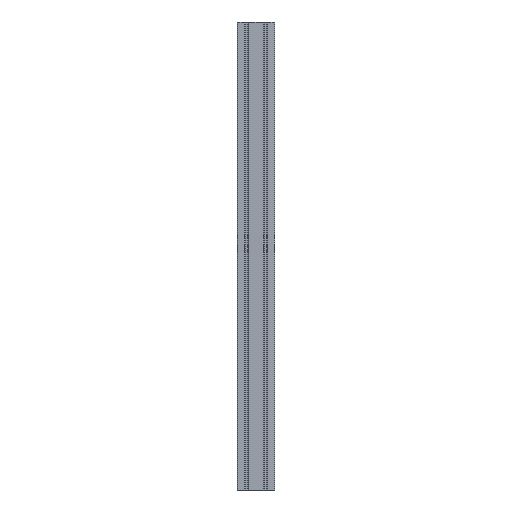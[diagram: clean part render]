
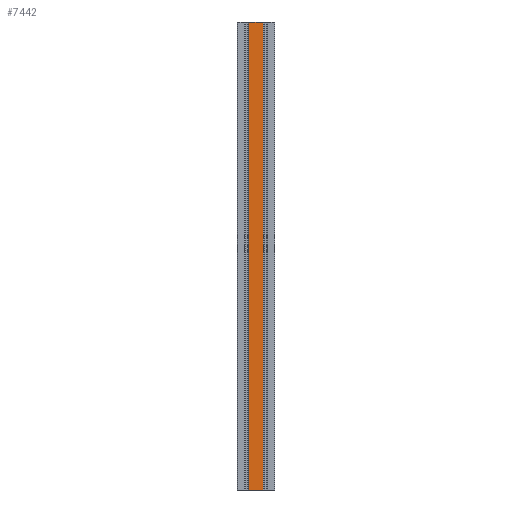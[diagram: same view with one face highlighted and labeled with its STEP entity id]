
A CAD part, front view. The second image highlights one B-rep face of the part: STEP entity #7442.
In plain terms, the highlighted planar face has unit normal (0, -1, 0).
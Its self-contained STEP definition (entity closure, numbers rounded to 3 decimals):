
#7384=CARTESIAN_POINT('',(285.35,150.,1000.0));
#7385=VERTEX_POINT('',#7384);
#7393=CARTESIAN_POINT('',(285.35,150.,0.0));
#7394=VERTEX_POINT('',#7393);
#7395=CARTESIAN_POINT('',(285.35,150.,0.0));
#7396=DIRECTION('',(0.0,0.0,1.0));
#7397=VECTOR('',#7396,1000.0);
#7398=LINE('',#7395,#7397);
#7399=EDGE_CURVE('',#7394,#7385,#7398,.T.);
#7412=CARTESIAN_POINT('',(285.35,150.,0.0));
#7413=DIRECTION('',(0.0,-1.0,0.0));
#7414=DIRECTION('',(0.0,0.0,-1.0));
#7415=AXIS2_PLACEMENT_3D('',#7412,#7413,#7414);
#7416=PLANE('',#7415);
#7417=CARTESIAN_POINT('',(254.65,150.,1000.0));
#7418=VERTEX_POINT('',#7417);
#7419=CARTESIAN_POINT('',(285.35,150.,1000.0));
#7420=DIRECTION('',(-1.0,0.0,0.0));
#7421=VECTOR('',#7420,30.7);
#7422=LINE('',#7419,#7421);
#7423=EDGE_CURVE('',#7385,#7418,#7422,.T.);
#7424=ORIENTED_EDGE('',*,*,#7423,.T.);
#7425=CARTESIAN_POINT('',(254.65,150.,0.0));
#7426=VERTEX_POINT('',#7425);
#7427=CARTESIAN_POINT('',(254.65,150.,0.0));
#7428=DIRECTION('',(0.0,0.0,1.0));
#7429=VECTOR('',#7428,1000.0);
#7430=LINE('',#7427,#7429);
#7431=EDGE_CURVE('',#7426,#7418,#7430,.T.);
#7432=ORIENTED_EDGE('',*,*,#7431,.F.);
#7433=CARTESIAN_POINT('',(254.65,150.,0.0));
#7434=DIRECTION('',(1.0,0.0,0.0));
#7435=VECTOR('',#7434,30.7);
#7436=LINE('',#7433,#7435);
#7437=EDGE_CURVE('',#7426,#7394,#7436,.T.);
#7438=ORIENTED_EDGE('',*,*,#7437,.T.);
#7439=ORIENTED_EDGE('',*,*,#7399,.T.);
#7440=EDGE_LOOP('',(#7424,#7432,#7438,#7439));
#7441=FACE_OUTER_BOUND('',#7440,.T.);
#7442=ADVANCED_FACE('',(#7441),#7416,.T.);
